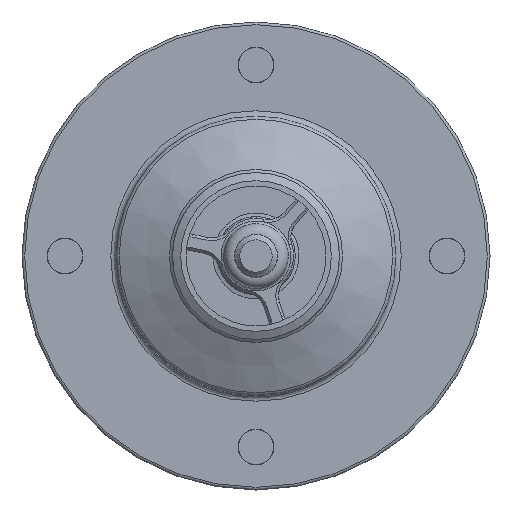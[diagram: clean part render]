
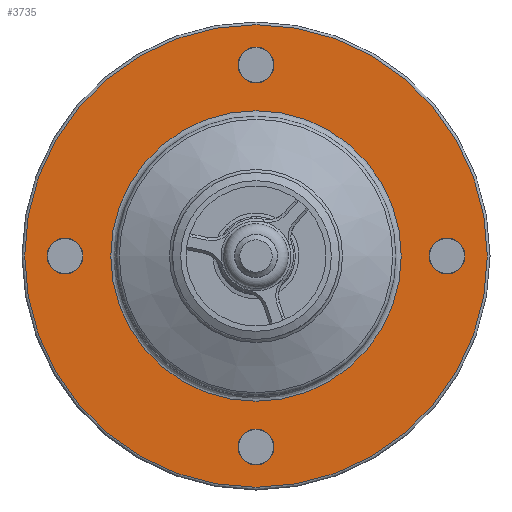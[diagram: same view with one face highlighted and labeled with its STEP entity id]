
A CAD part, left-side view. The second image highlights one B-rep face of the part: STEP entity #3735.
In plain terms, the highlighted planar face has unit normal (-1, 0, 0).
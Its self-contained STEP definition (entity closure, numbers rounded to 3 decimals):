
#3660=CARTESIAN_POINT('',(-27.725,43.,0.));
#3661=VERTEX_POINT('',#3660);
#3662=CARTESIAN_POINT('',(-27.725,0.,0.));
#3663=DIRECTION('',(1.0,0.0,0.0));
#3664=DIRECTION('',(0.0,-1.0,0.0));
#3665=AXIS2_PLACEMENT_3D('',#3662,#3663,#3664);
#3666=CIRCLE('',#3665,43.);
#3667=EDGE_CURVE('',#3661,#3661,#3666,.T.);
#3672=CARTESIAN_POINT('',(-27.725,35.25,0.));
#3673=DIRECTION('',(-1.0,0.0,0.0));
#3674=DIRECTION('',(0.0,0.0,1.0));
#3675=AXIS2_PLACEMENT_3D('',#3672,#3673,#3674);
#3676=PLANE('',#3675);
#3677=ORIENTED_EDGE('',*,*,#3667,.F.);
#3678=EDGE_LOOP('',(#3677));
#3679=FACE_OUTER_BOUND('',#3678,.T.);
#3680=CARTESIAN_POINT('',(-27.725,27.,0.));
#3681=VERTEX_POINT('',#3680);
#3682=CARTESIAN_POINT('',(-27.725,0.,0.));
#3683=DIRECTION('',(-1.0,0.0,0.0));
#3684=DIRECTION('',(0.0,1.0,0.0));
#3685=AXIS2_PLACEMENT_3D('',#3682,#3683,#3684);
#3686=CIRCLE('',#3685,27.);
#3687=EDGE_CURVE('',#3681,#3681,#3686,.T.);
#3688=ORIENTED_EDGE('',*,*,#3687,.F.);
#3689=EDGE_LOOP('',(#3688));
#3690=FACE_BOUND('',#3689,.T.);
#3691=CARTESIAN_POINT('',(-27.725,35.5,3.323));
#3692=VERTEX_POINT('',#3691);
#3693=CARTESIAN_POINT('',(-27.725,35.5,0.));
#3694=DIRECTION('',(1.0,0.0,0.0));
#3695=DIRECTION('',(0.0,0.0,-1.0));
#3696=AXIS2_PLACEMENT_3D('',#3693,#3694,#3695);
#3697=CIRCLE('',#3696,3.324);
#3698=EDGE_CURVE('',#3692,#3692,#3697,.T.);
#3699=ORIENTED_EDGE('',*,*,#3698,.T.);
#3700=EDGE_LOOP('',(#3699));
#3701=FACE_BOUND('',#3700,.T.);
#3702=CARTESIAN_POINT('',(-27.725,3.323,-35.5));
#3703=VERTEX_POINT('',#3702);
#3704=CARTESIAN_POINT('',(-27.725,0.,-35.5));
#3705=DIRECTION('',(1.0,0.0,0.0));
#3706=DIRECTION('',(0.0,-1.0,0.0));
#3707=AXIS2_PLACEMENT_3D('',#3704,#3705,#3706);
#3708=CIRCLE('',#3707,3.324);
#3709=EDGE_CURVE('',#3703,#3703,#3708,.T.);
#3710=ORIENTED_EDGE('',*,*,#3709,.T.);
#3711=EDGE_LOOP('',(#3710));
#3712=FACE_BOUND('',#3711,.T.);
#3713=CARTESIAN_POINT('',(-27.725,-35.5,-3.323));
#3714=VERTEX_POINT('',#3713);
#3715=CARTESIAN_POINT('',(-27.725,-35.5,0.));
#3716=DIRECTION('',(1.0,0.0,0.0));
#3717=DIRECTION('',(0.0,0.0,1.0));
#3718=AXIS2_PLACEMENT_3D('',#3715,#3716,#3717);
#3719=CIRCLE('',#3718,3.324);
#3720=EDGE_CURVE('',#3714,#3714,#3719,.T.);
#3721=ORIENTED_EDGE('',*,*,#3720,.T.);
#3722=EDGE_LOOP('',(#3721));
#3723=FACE_BOUND('',#3722,.T.);
#3724=CARTESIAN_POINT('',(-27.725,-3.324,35.5));
#3725=VERTEX_POINT('',#3724);
#3726=CARTESIAN_POINT('',(-27.725,0.,35.5));
#3727=DIRECTION('',(1.0,0.0,0.0));
#3728=DIRECTION('',(0.0,1.0,0.0));
#3729=AXIS2_PLACEMENT_3D('',#3726,#3727,#3728);
#3730=CIRCLE('',#3729,3.324);
#3731=EDGE_CURVE('',#3725,#3725,#3730,.T.);
#3732=ORIENTED_EDGE('',*,*,#3731,.T.);
#3733=EDGE_LOOP('',(#3732));
#3734=FACE_BOUND('',#3733,.T.);
#3735=ADVANCED_FACE('',(#3679,#3690,#3701,#3712,#3723,#3734),#3676,.T.);
